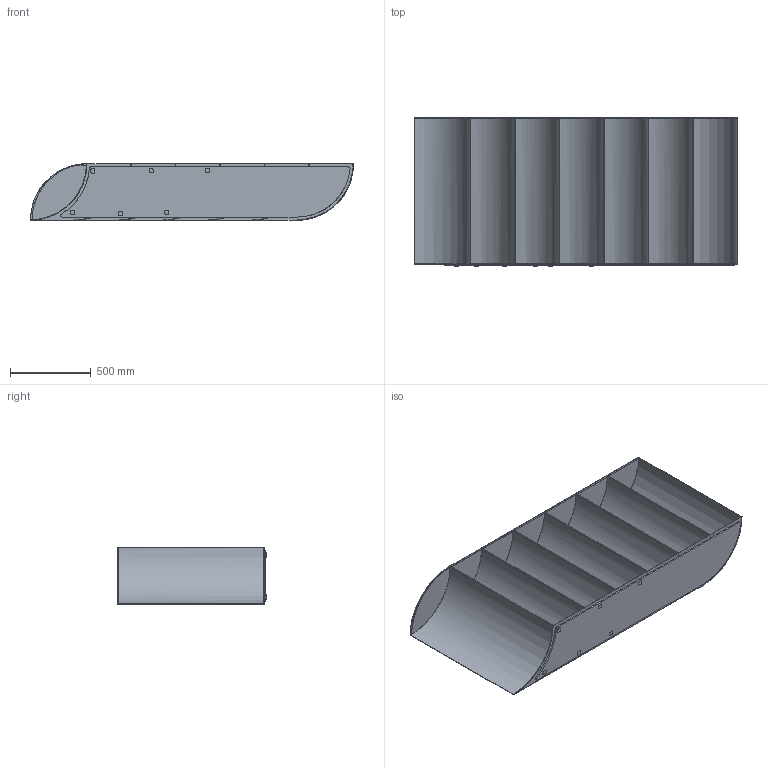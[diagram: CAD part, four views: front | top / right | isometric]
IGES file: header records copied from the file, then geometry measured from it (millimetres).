
Start section: SolidWorks IGES file using analytic representation for surfaces
Global section: file name: \\192.168.0.53\Reserch Development\SITO WEB\2024\FFG26A~6\Prodotti\3D\De Castelli- 3D - Sinestesia 200.IGS; native system: SolidWorks 2025; preprocessor: SolidWorks 2025; author: lauraa; date: 260130.172701; units: millimetre
Bounding box: 2000 x 919 x 350 mm (x, y, z)
Surface area: 10547641.3 mm2 (no closed solid volume)
Topology: 0 solids, 0 shells, 112 faces, 1633 edges, 1633 vertices
Faces by surface type: bspline 70, revolution 42
